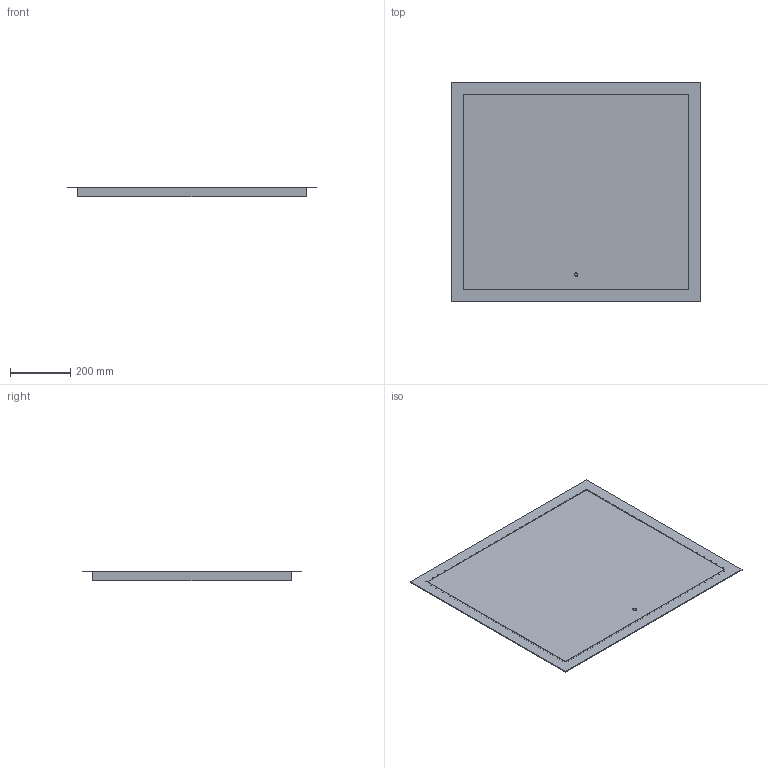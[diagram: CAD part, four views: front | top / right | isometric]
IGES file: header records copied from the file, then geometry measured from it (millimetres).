
Start section: SolidWorks IGES file using analytic representation for surfaces
Global section: file name: C:\Users\danielet\Desktop\3D CARLOS\AMANZI-A35961-3D\AMANZI-A35961-3D.IGS; native system: SolidWorks 2018; preprocessor: SolidWorks 2018; author: danielet; date: 220207.123140; units: millimetre
Bounding box: 830 x 730 x 33 mm (x, y, z)
Surface area: 1396981.1 mm2 (no closed solid volume)
Topology: 0 solids, 0 shells, 32 faces, 248 edges, 248 vertices
Faces by surface type: bspline 28, revolution 4
